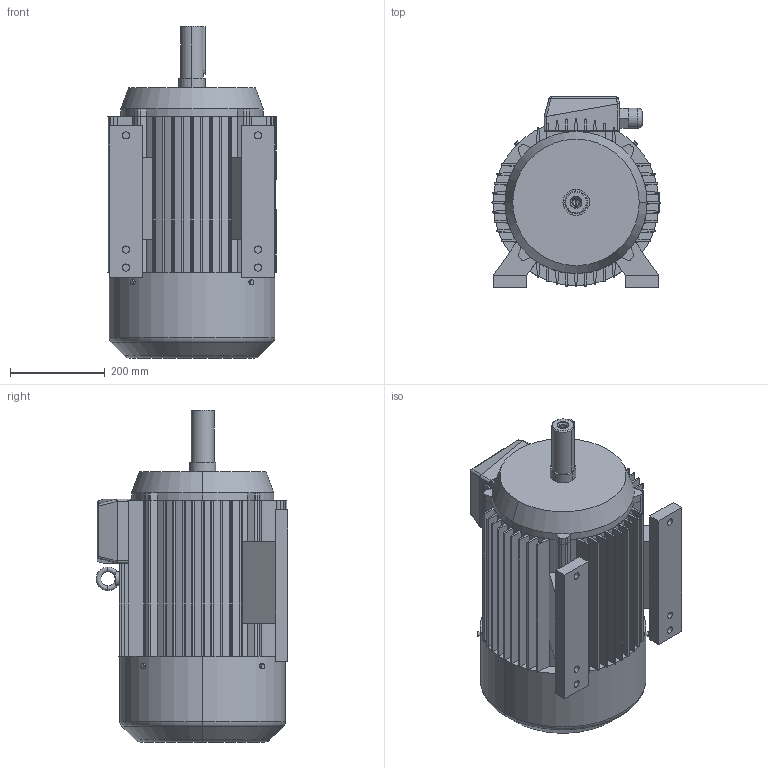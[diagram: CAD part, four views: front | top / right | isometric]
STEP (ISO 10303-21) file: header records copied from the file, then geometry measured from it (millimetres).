
FILE_DESCRIPTION (( 'STEP AP203' ), '1' );
FILE_NAME ('Sg 180M,L-B5.STEP', '2010-02-09T12:46:56', ( 'INDUKTA' ), ( 'CANTONI MOTOR' ), 'SwSTEP 2.0', 'SolidWorks 2003064', '' );
FILE_SCHEMA (( 'CONFIG_CONTROL_DESIGN' ));
Length unit declared in the file: millimetre
Products named in the file (1): Sg 180M,L-B5
Bounding box: 354.99 x 405 x 701 mm (x, y, z)
Volume: 50225209.6 mm3; surface area: 2039159.7 mm2
Topology: 15 solids, 15 shells, 521 faces, 1377 edges, 889 vertices
Faces by surface type: plane 264, cylinder 181, bspline 42, torus 16, cone 14, sphere 4
Entity records: 19238 total; most frequent: CARTESIAN_POINT 6279, ORIENTED_EDGE 2742, DIRECTION 2618, EDGE_CURVE 1371, VERTEX_POINT 889, AXIS2_PLACEMENT_3D 876, LINE 866, VECTOR 866
